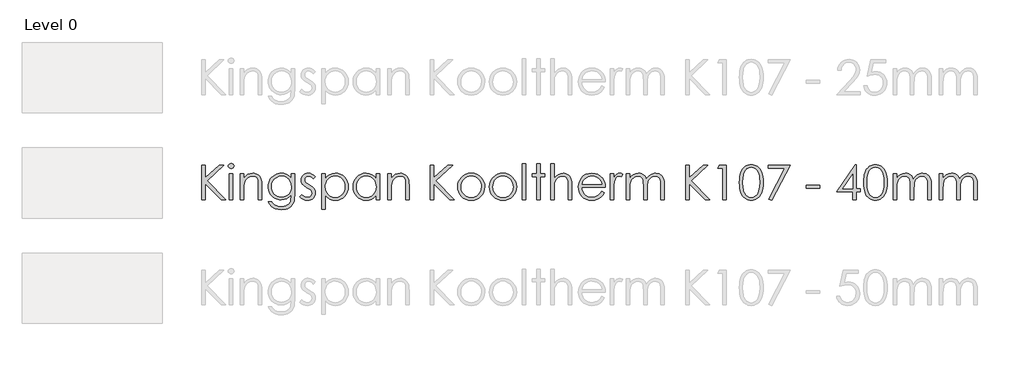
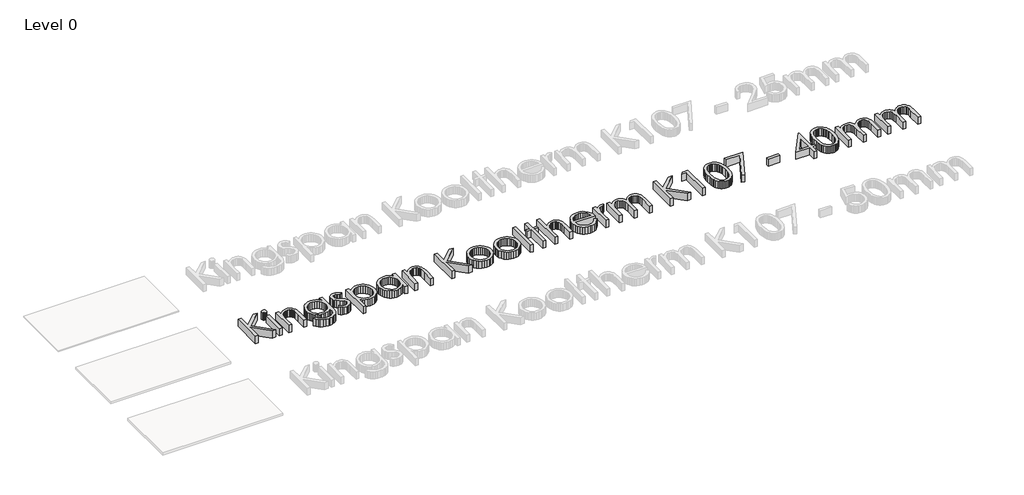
# One storey, part 12 of 13: 1 proxy.
"""IFC4 building model written with IfcOpenShell, lengths in millimetres."""

from ifc_helpers import new_model, si_unit, origin, origin_with_axes, place, context, project, spatial, polyline, outline, extrude, element, save

model = new_model("IFC4")

# Units and contexts
model_context = context("Model", 3, world=origin())
ifc_project = project(units=[si_unit("LENGTHUNIT", "METRE", prefix="MILLI")], contexts=[model_context])

# Site, building, storey
site = spatial("IfcSite", under=ifc_project)
building = spatial("IfcBuilding", under=site)
storey = spatial("IfcBuildingStorey", under=building, Name="Level 0", Elevation=0.0)

# Proxy
placement = place(None, origin())
element("IfcBuildingElementProxy", 1, Name="600mm KI_CenturyGothic", ObjectType="600mm KI_CenturyGothic", at=placement, inside=storey, context=model_context, shape_type="SweptSolid", body=[
    extrude(outline(polyline([(-3852.2663848, 4100.8965983), (-3792.944575, 4100.8965983), (-3792.944575, 3881.683973), (-3555.1938841, 4100.8965983), (-3471.6181051, 4100.8965983), (-3760.9664119, 3833.9484541), (-3441.9572002, 3507.6785001), (-3520.8984627, 3507.6785001), (-3792.944575, 3785.9039675), (-3792.944575, 3507.6785001), (-3852.2663848, 3507.6785001), (-3852.2663848, 4100.8965983)])), origin_with_axes(), (0.0, 0.0, 1.0), 150.0),
    extrude(outline(polyline([(-3348.1854852, 4130.5575033), (-3329.145347, 4127.2747208), (-3313.1176445, 4117.4263735), (-3302.226531, 4102.9821307), (-3298.5961598, 4085.911662), (-3302.226531, 4069.0729191), (-3313.1176445, 4054.7059183), (-3329.145347, 4044.857571), (-3348.1854852, 4041.5747885), (-3366.9938975, 4044.857571), (-3382.9443581, 4054.7059183), (-3393.8354717, 4069.0729191), (-3397.4658428, 4085.911662), (-3393.8354717, 4102.9821307), (-3382.9443581, 4117.4263735), (-3366.9938975, 4127.2747208), (-3348.1854852, 4130.5575033)])), origin_with_axes(), (0.0, 0.0, 1.0), 150.0),
    extrude(outline(polyline([(-3377.6919062, 3952.5920738), (-3318.3700964, 3952.5920738), (-3318.3700964, 3507.6785001), (-3377.6919062, 3507.6785001), (-3377.6919062, 3952.5920738)])), origin_with_axes(), (0.0, 0.0, 1.0), 150.0),
    extrude(outline(polyline([(-3189.8395084, 3952.5920738), (-3130.5176986, 3952.5920738), (-3130.5176986, 3873.4963274), (-3096.9946967, 3913.0055796), (-3060.0730495, 3940.696815), (-3019.7141359, 3957.0334853), (-2975.879335, 3962.4790421), (-2953.4357238, 3960.9004099), (-2932.2955704, 3956.1645135), (-2912.4588747, 3948.2713528), (-2893.9256368, 3937.2209277), (-2877.212412, 3923.4960006), (-2862.835756, 3907.5793333), (-2841.0921499, 3869.1707787), (-2833.6238199, 3844.7912914), (-2828.2892984, 3814.4448643), (-2824.0216812, 3735.8511905), (-2824.0216812, 3507.6785001), (-2883.343491, 3507.6785001), (-2883.343491, 3720.8662542), (-2883.343491, 3823.907002), (-2884.7290183, 3844.7043943), (-2889.8125035, 3862.7596977), (-2898.2849788, 3878.0729123), (-2910.1464442, 3890.644038), (-2924.7403432, 3900.4441091), (-2941.4101193, 3907.4441599), (-2980.977303, 3913.0442006), (-3005.3471351, 3910.8862539), (-3028.4038541, 3904.4124138), (-3050.1474602, 3893.6226803), (-3070.5779533, 3878.5170534), (-3088.6622225, 3860.2348518), (-3103.3671568, 3839.915394), (-3114.6927562, 3817.55868), (-3122.6390208, 3793.1647099), (-3128.5480292, 3746.0857475), (-3130.5176986, 3671.5858965), (-3130.5176986, 3507.6785001), (-3189.8395084, 3507.6785001), (-3189.8395084, 3952.5920738)])), origin_with_axes(), (0.0, 0.0, 1.0), 150.0),
    extrude(outline(polyline([(-2319.7862977, 3952.5920738), (-2260.4644879, 3952.5920738), (-2260.4644879, 3601.604699), (-2264.5196897, 3521.3503235), (-2269.588692, 3490.5500999), (-2276.6852953, 3465.9678526), (-2289.9371156, 3437.3545415), (-2307.2924139, 3412.2267729), (-2328.7511904, 3390.5845469), (-2354.3134448, 3372.4278634), (-2383.3226209, 3358.0656902), (-2415.122162, 3347.8069951), (-2449.7120682, 3341.651778), (-2487.0923395, 3339.6000389), (-2541.0458345, 3343.6166198), (-2589.206184, 3355.6663624), (-2630.260275, 3374.4940853), (-2662.8949946, 3398.8446068), (-2690.2000204, 3432.1938144), (-2715.2650299, 3478.0175952), (-2655.94322, 3478.0175952), (-2642.4355358, 3456.848476), (-2627.0933555, 3438.6048954), (-2609.9166791, 3423.2868532), (-2590.9055067, 3410.8943494), (-2569.7894914, 3401.3308318), (-2546.2982864, 3394.4997477), (-2492.1903075, 3389.0348805), (-2438.5071593, 3394.3645743), (-2415.083541, 3401.0266916), (-2393.93856, 3410.3536559), (-2359.6624492, 3434.3952097), (-2336.8567664, 3463.8823202), (-2329.3884364, 3482.5217658), (-2324.0539149, 3506.2302137), (-2319.7862977, 3568.8541165), (-2319.7862977, 3591.5632468), (-2354.757586, 3555.7809182), (-2396.6420279, 3529.3834852), (-2443.392712, 3513.1047464), (-2492.9627269, 3507.6785001), (-2522.4063889, 3509.5757553), (-2550.9521133, 3515.2675207), (-2578.5999001, 3524.7537964), (-2605.3497494, 3538.0345825), (-2630.1540674, 3554.5257366), (-2651.9652601, 3573.6431168), (-2670.7833277, 3595.3867228), (-2686.6082702, 3619.7565549), (-2699.1456025, 3646.0719183), (-2708.1008399, 3673.6521184), (-2713.4739824, 3702.4971553), (-2715.2650299, 3732.607029), (-2713.3967404, 3762.8955247), (-2707.7918722, 3792.1219437), (-2698.4504251, 3820.286286), (-2685.3723991, 3847.3885517), (-2668.9971079, 3872.5742517), (-2649.7638648, 3894.9888971), (-2627.67267, 3914.632488), (-2602.7235235, 3931.5050242), (-2575.9833294, 3945.056157), (-2548.5189922, 3954.7355376), (-2520.3305117, 3960.543166), (-2491.4178881, 3962.4790421), (-2444.5320306, 3957.5355579), (-2400.8903346, 3942.7051055), (-2359.6045177, 3916.1338782), (-2319.7862977, 3875.9680694), (-2319.7862977, 3952.5920738)]), holes=[polyline([(-2484.1571458, 3913.0442006), (-2529.0154023, 3907.0193293), (-2570.5908765, 3888.9447153), (-2606.2187212, 3860.2300242), (-2633.2340897, 3822.2849212), (-2650.2659375, 3778.0059792), (-2655.94322, 3730.2897708), (-2653.0080263, 3694.3770964), (-2644.2024452, 3661.7182387), (-2629.5264766, 3632.3131977), (-2608.9801206, 3606.1619734), (-2583.7606272, 3584.703197), (-2555.0652466, 3569.3754996), (-2522.8939786, 3560.1788811), (-2487.2468234, 3557.1133416), (-2451.3244937, 3560.154743), (-2419.1001219, 3569.2789472), (-2390.573708, 3584.4859541), (-2365.7452519, 3605.7757637), (-2345.6382095, 3632.0187128), (-2331.2760363, 3662.0851379), (-2322.6587323, 3695.975039), (-2319.7862977, 3733.6884162), (-2325.0773706, 3782.3894593), (-2340.9505892, 3825.6063246), (-2366.4983608, 3861.8327944), (-2400.8130926, 3889.5626508), (-2440.9982119, 3907.1738131), (-2484.1571458, 3913.0442006)])]), origin_with_axes(), (0.0, 0.0, 1.0), 150.0),
    extrude(outline(polyline([(-1904.5336289, 3901.3034257), (-1940.9918246, 3863.609359), (-1962.9575012, 3885.2371022), (-1984.6721416, 3900.6854902), (-2006.1357456, 3909.954523), (-2027.3483133, 3913.0442006), (-2052.181597, 3908.3710632), (-2073.2300256, 3894.3516511), (-2087.5970264, 3874.1142629), (-2092.3860267, 3850.787197), (-2088.4466878, 3829.2366958), (-2076.628671, 3808.7675817), (-2052.0657341, 3786.599145), (-2010.2006027, 3760.877579), (-1958.3326401, 3728.0111336), (-1939.8428507, 3712.1861912), (-1926.315856, 3696.7667689), (-1909.9791857, 3664.0934284), (-1904.5336289, 3627.5579908), (-1906.9474396, 3601.4115941), (-1914.1888714, 3577.3507299), (-1926.2579245, 3555.375398), (-1943.1545989, 3535.4855985), (-1963.6719892, 3518.9944443), (-1986.6031901, 3507.2150485), (-2011.9482016, 3500.147411), (-2039.7070237, 3497.7915318), (-2077.4397114, 3501.6729393), (-2113.3958344, 3513.3171617), (-2145.4512394, 3531.7972958), (-2171.4817731, 3556.1864383), (-2135.7959969, 3596.6612148), (-2114.0041146, 3575.0334717), (-2091.5749863, 3559.5850837), (-2068.5086121, 3550.3160509), (-2044.8049918, 3547.2263733), (-2013.637869, 3552.8650349), (-1987.4914724, 3569.7810198), (-1969.7644472, 3594.3439566), (-1963.8554388, 3622.9234744), (-1967.7561567, 3646.7139919), (-1979.4583106, 3667.7237995), (-2005.0253927, 3689.4287846), (-2050.2119275, 3716.2317378), (-2099.762632, 3746.8967879), (-2117.441381, 3762.0555186), (-2130.3890611, 3777.0983864), (-2146.3781427, 3809.2310334), (-2151.7078365, 3845.689229), (-2149.5305794, 3869.7356104), (-2142.9988078, 3891.6674937), (-2132.1125219, 3911.4848789), (-2116.8717217, 3929.187766), (-2098.309518, 3943.7526993), (-2077.4590218, 3954.1562231), (-2054.3202332, 3960.3983373), (-2028.8931521, 3962.4790421), (-1997.9481, 3958.6555661), (-1966.9064954, 3947.185138), (-1935.7683384, 3928.0677579), (-1904.5336289, 3901.3034257)])), origin_with_axes(), (0.0, 0.0, 1.0), 150.0),
    extrude(outline(polyline([(-1795.7769776, 3952.5920738), (-1736.4551678, 3952.5920738), (-1736.4551678, 3871.4880369), (-1700.9238754, 3911.7310876), (-1660.4490989, 3940.0788795), (-1614.9922173, 3956.8790014), (-1564.5146096, 3962.4790421), (-1520.0618732, 3958.2403906), (-1478.9305402, 3945.5244363), (-1441.1206107, 3924.331179), (-1406.6320845, 3894.6606189), (-1377.9077381, 3859.0231189), (-1357.3903478, 3819.929042), (-1345.0799137, 3777.3783884), (-1340.9764356, 3731.371158), (-1345.0412927, 3684.4708176), (-1357.235864, 3641.2491246), (-1377.5601494, 3601.706079), (-1406.014149, 3565.8416808), (-1440.2130179, 3536.0697406), (-1477.7719111, 3514.8040691), (-1518.6908288, 3502.0446661), (-1562.9697708, 3497.7915318), (-1612.6170277, 3503.256399), (-1658.0545988, 3519.6510008), (-1699.3211052, 3546.8980951), (-1736.4551678, 3584.92044), (-1736.4551678, 3349.4870072), (-1795.7769776, 3349.4870072), (-1795.7769776, 3952.5920738)]), holes=[polyline([(-1568.5311905, 3913.0442006), (-1602.5852307, 3909.7469353), (-1633.8392507, 3899.8551393), (-1662.2932503, 3883.3688128), (-1687.9472295, 3860.2879556), (-1709.1694525, 3832.3022353), (-1724.3281832, 3801.1013192), (-1733.4234216, 3766.6852074), (-1736.4551678, 3729.0538998), (-1731.048232, 3680.1983728), (-1714.8274246, 3636.5180558), (-1688.5265441, 3599.6736505), (-1652.8793888, 3571.3258586), (-1611.4390881, 3553.2512446), (-1567.7587711, 3547.2263733), (-1525.0632888, 3553.2898656), (-1485.0326535, 3571.4803424), (-1450.2544701, 3600.5812433), (-1423.3163435, 3639.3760076), (-1406.05277, 3684.0411593), (-1400.2982454, 3730.7532225), (-1405.9948385, 3777.6970114), (-1423.0846177, 3822.1304373), (-1449.8103289, 3860.4810605), (-1484.414718, 3889.1764411), (-1524.7157001, 3907.0772607), (-1568.5311905, 3913.0442006)])]), origin_with_axes(), (0.0, 0.0, 1.0), 150.0),
    extrude(outline(polyline([(-807.0801472, 3952.5920738), (-807.0801472, 3507.6785001), (-866.401957, 3507.6785001), (-866.401957, 3583.5300851), (-903.4780882, 3545.6815345), (-944.8797679, 3518.9558233), (-990.4525125, 3503.0826047), (-1040.0418379, 3497.7915318), (-1084.3159523, 3502.0446661), (-1125.2203871, 3514.8040691), (-1162.7551422, 3536.0697406), (-1196.9202178, 3565.8416808), (-1225.340424, 3601.706079), (-1245.6405713, 3641.2491246), (-1257.8206597, 3684.4708176), (-1261.8806892, 3731.371158), (-1257.7820388, 3777.3783884), (-1245.4860875, 3819.929042), (-1224.9928353, 3859.0231189), (-1196.3022822, 3894.6606189), (-1161.8475494, 3924.331179), (-1124.061758, 3945.5244363), (-1082.9449079, 3958.2403906), (-1038.4969991, 3962.4790421), (-987.7490446, 3956.8790014), (-942.0990581, 3940.0788795), (-921.2051134, 3927.3918909), (-901.6242816, 3911.7310876), (-866.401957, 3871.4880369), (-866.401957, 3952.5920738), (-807.0801472, 3952.5920738)]), holes=[polyline([(-1034.3259343, 3913.0442006), (-1078.1414247, 3907.0772607), (-1118.4424068, 3889.1764411), (-1153.0467959, 3860.4810605), (-1179.7725071, 3822.1304373), (-1196.8622863, 3777.6970114), (-1202.5588794, 3730.7532225), (-1196.8043548, 3684.0411593), (-1179.5407813, 3639.3760076), (-1152.6026548, 3600.5812433), (-1117.8244713, 3571.4803424), (-1077.6779731, 3553.2898656), (-1034.6349021, 3547.2263733), (-991.0125165, 3553.2512446), (-949.7460102, 3571.3258586), (-914.2726493, 3599.6736505), (-888.0297002, 3636.5180558), (-871.8088928, 3680.1983728), (-866.401957, 3729.0538998), (-869.4337032, 3766.6852074), (-878.5289416, 3801.1013192), (-893.6876723, 3832.3022353), (-914.9098953, 3860.2879556), (-940.5638746, 3883.3688128), (-969.0178742, 3899.8551393), (-1000.2718941, 3909.7469353), (-1034.3259343, 3913.0442006)])]), origin_with_axes(), (0.0, 0.0, 1.0), 150.0),
    extrude(outline(polyline([(-668.662591, 3952.5920738), (-609.3407811, 3952.5920738), (-609.3407811, 3873.4963274), (-575.8177792, 3913.0055796), (-538.896132, 3940.696815), (-498.5372184, 3957.0334853), (-454.7024175, 3962.4790421), (-432.2588064, 3960.9004099), (-411.1186529, 3956.1645135), (-391.2819572, 3948.2713528), (-372.7487193, 3937.2209277), (-356.0354946, 3923.4960006), (-341.6588385, 3907.5793333), (-319.9152324, 3869.1707787), (-312.4469024, 3844.7912914), (-307.1123809, 3814.4448643), (-302.8447637, 3735.8511905), (-302.8447637, 3507.6785001), (-362.1665735, 3507.6785001), (-362.1665735, 3720.8662542), (-362.1665735, 3823.907002), (-363.5521008, 3844.7043943), (-368.635586, 3862.7596977), (-377.1080613, 3878.0729123), (-388.9695267, 3890.644038), (-403.5634257, 3900.4441091), (-420.2332018, 3907.4441599), (-459.8003855, 3913.0442006), (-484.1702176, 3910.8862539), (-507.2269366, 3904.4124138), (-528.9705427, 3893.6226803), (-549.4010358, 3878.5170534), (-567.485305, 3860.2348518), (-582.1902393, 3839.915394), (-593.5158387, 3817.55868), (-601.4621033, 3793.1647099), (-607.3711117, 3746.0857475), (-609.3407811, 3671.5858965), (-609.3407811, 3507.6785001), (-668.662591, 3507.6785001), (-668.662591, 3952.5920738)])), origin_with_axes(), (0.0, 0.0, 1.0), 150.0),
    extrude(outline(polyline([(62.9730635, 4100.8965983), (122.2948734, 4100.8965983), (122.2948734, 3881.683973), (360.0455643, 4100.8965983), (443.6213432, 4100.8965983), (154.2730365, 3833.9484541), (473.2822481, 3507.6785001), (394.3409856, 3507.6785001), (122.2948734, 3785.9039675), (122.2948734, 3507.6785001), (62.9730635, 3507.6785001), (62.9730635, 4100.8965983)])), origin_with_axes(), (0.0, 0.0, 1.0), 150.0),
    extrude(outline(polyline([(760.1588128, 3962.4790421), (809.4681362, 3957.8541809), (854.3553585, 3943.9795975), (894.8204798, 3920.8552917), (930.8635, 3888.4812637), (957.7630055, 3853.2492839), (976.9769381, 3814.908316), (988.5052976, 3773.45836), (992.3480841, 3728.8994159), (988.283227, 3684.0846079), (976.0886558, 3642.1760279), (955.7643703, 3603.1736759), (927.3103707, 3567.0775519), (892.4742558, 3536.7649181), (853.0036246, 3515.1130368), (808.8984769, 3502.1219081), (760.1588128, 3497.7915318), (711.2839754, 3502.1219081), (667.0822753, 3515.1130368), (627.5537126, 3536.7649181), (592.6982872, 3567.0775519), (564.2442876, 3603.1736759), (543.9200022, 3642.1760279), (531.7254309, 3684.0846079), (527.6605738, 3728.8994159), (531.5033603, 3773.2652551), (543.0317198, 3814.5993482), (562.2456524, 3852.9016951), (589.145158, 3888.1722959), (625.2074886, 3920.6814974), (665.7305413, 3943.9023555), (710.7143161, 3957.8348705), (760.1588128, 3962.4790421)]), holes=[polyline([(760.004329, 3913.0442006), (725.7282181, 3909.6696933), (693.9624704, 3899.5461716), (664.7070856, 3882.6736353), (637.962064, 3859.0520846), (615.6584538, 3830.6415336), (599.7273037, 3799.4019965), (590.1686137, 3765.3334734), (586.9823836, 3728.4359643), (592.7948396, 3680.7004454), (610.2322075, 3636.3635719), (637.5758543, 3598.5729529), (673.1071466, 3570.4761972), (714.6439998, 3553.0388293), (760.004329, 3547.2263733), (805.3646581, 3553.0388293), (846.9015113, 3570.4761972), (882.4328037, 3598.5729529), (909.7764504, 3636.3635719), (927.2138183, 3680.7004454), (933.0262743, 3728.4359643), (929.8255614, 3765.3334734), (920.2234227, 3799.4019965), (904.2198583, 3830.6415336), (881.8148681, 3859.0520846), (854.9974321, 3882.6736353), (825.7565303, 3899.5461716), (794.0921625, 3909.6696933), (760.004329, 3913.0442006)])]), origin_with_axes(), (0.0, 0.0, 1.0), 150.0),
    extrude(outline(polyline([(1303.9420695, 3962.4790421), (1353.2513929, 3957.8541809), (1398.1386152, 3943.9795975), (1438.6037365, 3920.8552917), (1474.6467567, 3888.4812637), (1501.5462622, 3853.2492839), (1520.7601948, 3814.908316), (1532.2885543, 3773.45836), (1536.1313408, 3728.8994159), (1532.0664837, 3684.0846079), (1519.8719125, 3642.1760279), (1499.547627, 3603.1736759), (1471.0936274, 3567.0775519), (1436.2575126, 3536.7649181), (1396.7868813, 3515.1130368), (1352.6817336, 3502.1219081), (1303.9420695, 3497.7915318), (1255.0672321, 3502.1219081), (1210.865532, 3515.1130368), (1171.3369693, 3536.7649181), (1136.4815439, 3567.0775519), (1108.0275443, 3603.1736759), (1087.7032589, 3642.1760279), (1075.5086876, 3684.0846079), (1071.4438305, 3728.8994159), (1075.286617, 3773.2652551), (1086.8149766, 3814.5993482), (1106.0289091, 3852.9016951), (1132.9284147, 3888.1722959), (1168.9907453, 3920.6814974), (1209.5137981, 3943.9023555), (1254.4975728, 3957.8348705), (1303.9420695, 3962.4790421)]), holes=[polyline([(1303.7875857, 3913.0442006), (1269.5114748, 3909.6696933), (1237.7457271, 3899.5461716), (1208.4903423, 3882.6736353), (1181.7453207, 3859.0520846), (1159.4417105, 3830.6415336), (1143.5105604, 3799.4019965), (1133.9518704, 3765.3334734), (1130.7656404, 3728.4359643), (1136.5780963, 3680.7004454), (1154.0154643, 3636.3635719), (1181.359111, 3598.5729529), (1216.8904033, 3570.4761972), (1258.4272565, 3553.0388293), (1303.7875857, 3547.2263733), (1349.1479149, 3553.0388293), (1390.684768, 3570.4761972), (1426.2160604, 3598.5729529), (1453.5597071, 3636.3635719), (1470.997075, 3680.7004454), (1476.809531, 3728.4359643), (1473.6088181, 3765.3334734), (1464.0066795, 3799.4019965), (1448.003115, 3830.6415336), (1425.5981249, 3859.0520846), (1398.7806889, 3882.6736353), (1369.539787, 3899.5461716), (1337.8754193, 3909.6696933), (1303.7875857, 3913.0442006)])]), origin_with_axes(), (0.0, 0.0, 1.0), 150.0),
    extrude(outline(polyline([(1635.0010238, 4120.6705349), (1694.3228337, 4120.6705349), (1694.3228337, 3507.6785001), (1635.0010238, 3507.6785001), (1635.0010238, 4120.6705349)])), origin_with_axes(), (0.0, 0.0, 1.0), 150.0),
    extrude(outline(polyline([(1882.1752314, 4120.6705349), (1941.4970413, 4120.6705349), (1941.4970413, 3952.5920738), (2020.5927877, 3952.5920738), (2020.5927877, 3903.1572323), (1941.4970413, 3903.1572323), (1941.4970413, 3507.6785001), (1882.1752314, 3507.6785001), (1882.1752314, 3903.1572323), (1803.079485, 3903.1572323), (1803.079485, 3952.5920738), (1882.1752314, 3952.5920738), (1882.1752314, 4120.6705349)])), origin_with_axes(), (0.0, 0.0, 1.0), 150.0),
    extrude(outline(polyline([(2119.4624707, 4120.6705349), (2178.7842806, 4120.6705349), (2178.7842806, 3871.9514886), (2212.5583188, 3911.6538456), (2249.6151394, 3939.9243956), (2289.9161216, 3956.8403805), (2333.4226442, 3962.4790421), (2355.8662553, 3960.9004099), (2377.0064088, 3956.1645135), (2396.8431044, 3948.2713528), (2415.3763424, 3937.2209277), (2432.0895671, 3923.5104834), (2446.4662232, 3907.6372648), (2468.2098293, 3869.4025045), (2475.6781593, 3845.0954316), (2481.0126808, 3814.7345216), (2485.280298, 3735.8511905), (2485.280298, 3507.6785001), (2425.9584882, 3507.6785001), (2425.9584882, 3720.8662542), (2424.5681332, 3785.247411), (2420.3970685, 3823.907002), (2406.879729, 3862.7596977), (2397.1665551, 3878.0729123), (2385.4837117, 3890.644038), (2371.840854, 3900.4441091), (2356.2476374, 3907.4441599), (2319.2101273, 3913.0442006), (2296.3416854, 3910.8862539), (2274.6994594, 3904.4124138), (2254.2834492, 3893.6226803), (2235.0936547, 3878.5170534), (2218.1052556, 3860.2348518), (2204.2934312, 3839.915394), (2193.6581816, 3817.55868), (2186.1995068, 3793.1647099), (2180.6380871, 3746.3174733), (2178.7842806, 3671.5858965), (2178.7842806, 3507.6785001), (2119.4624707, 3507.6785001), (2119.4624707, 4120.6705349)])), origin_with_axes(), (0.0, 0.0, 1.0), 150.0),
    extrude(outline(polyline([(2991.0605203, 3655.9830247), (3038.950523, 3630.8021523), (3013.3255094, 3588.9177104), (2984.0315038, 3555.9547125), (2950.952643, 3530.8703926), (2913.9730643, 3512.6219843), (2872.4941426, 3501.4991449), (2825.9172528, 3497.7915318), (2774.4258447, 3502.2232881), (2728.8627554, 3515.518557), (2689.227985, 3537.6773385), (2655.5215335, 3568.6996326), (2628.6220279, 3605.3026569), (2609.4080954, 3644.2036288), (2597.8797358, 3685.4025485), (2594.0369493, 3728.8994159), (2597.3197318, 3769.7797126), (2607.1680791, 3808.381372), (2623.5819913, 3844.7043943), (2646.5614684, 3878.7487793), (2682.7493173, 3915.3807692), (2724.5758277, 3941.5464764), (2772.0409998, 3957.2459007), (2825.1448334, 3962.4790421), (2879.7935059, 3957.1107273), (2928.6490329, 3941.0057828), (2971.7114143, 3914.1642087), (3008.9806503, 3876.5860049), (3030.4539096, 3844.414737), (3045.9022976, 3808.458614), (3055.3258143, 3768.7176359), (3058.7244596, 3725.1918028), (2653.3587591, 3725.1918028), (2657.095338, 3687.9370497), (2666.6057518, 3654.1871496), (2681.8900007, 3623.9421025), (2702.9480845, 3597.2019084), (2728.3124066, 3575.3376118), (2756.5153699, 3559.7202571), (2787.5569744, 3550.3498443), (2821.4372203, 3547.2263733), (2854.9602222, 3550.238809), (2887.5563208, 3559.2761159), (2917.2944677, 3573.3148385), (2942.2436143, 3591.331521), (2965.725164, 3617.4972281), (2991.0605203, 3655.9830247)]), holes=[polyline([(2999.4026498, 3774.6266443), (2984.9777175, 3817.1483322), (2965.1844704, 3850.1692615), (2939.0766947, 3875.6977226), (2905.7081767, 3895.742006), (2867.7630738, 3908.7186519), (2827.9255433, 3913.0442006), (2795.503239, 3910.3310774), (2765.4368139, 3902.191708), (2737.726268, 3888.6260923), (2712.3716012, 3869.6342304), (2695.8321708, 3851.820308), (2681.4362043, 3830.0477362), (2669.1837016, 3804.316515), (2659.0746627, 3774.6266443), (2999.4026498, 3774.6266443)])]), origin_with_axes(), (0.0, 0.0, 1.0), 150.0),
    extrude(outline(polyline([(3137.820206, 3952.5920738), (3197.1420159, 3952.5920738), (3197.1420159, 3888.1722959), (3222.6897875, 3921.2125357), (3249.589293, 3944.3271862), (3277.7632906, 3957.9410781), (3307.1345382, 3962.4790421), (3330.4616041, 3958.694187), (3355.3335087, 3947.3396219), (3325.8270877, 3905.3200066), (3297.2475699, 3913.0442006), (3270.8308265, 3907.0965712), (3245.3409863, 3889.2536831), (3223.2884125, 3858.8976007), (3207.183468, 3815.4103886), (3199.6523789, 3757.2858288), (3197.1420159, 3659.8451217), (3197.1420159, 3507.6785001), (3137.820206, 3507.6785001), (3137.820206, 3952.5920738)])), origin_with_axes(), (0.0, 0.0, 1.0), 150.0),
    extrude(outline(polyline([(3414.6553185, 3952.5920738), (3473.9771284, 3952.5920738), (3473.9771284, 3876.4315211), (3503.5607913, 3912.9283377), (3533.9168737, 3938.0705891), (3577.3268439, 3956.3769288), (3622.8995884, 3962.4790421), (3653.7384329, 3959.331433), (3682.9165757, 3949.8886059), (3708.6767627, 3935.2126373), (3729.2617397, 3916.365604), (3746.0425511, 3890.9336953), (3760.3902414, 3856.5031006), (3775.16759, 3880.9018983), (3791.6925376, 3902.191708), (3809.965084, 3920.3725296), (3829.9852293, 3935.4443631), (3851.2798666, 3947.2720352), (3873.375889, 3955.7203723), (3896.2732965, 3960.7893747), (3919.9720892, 3962.4790421), (3962.3006723, 3956.6665861), (3981.4952943, 3949.4010161), (3999.3768034, 3939.2292182), (4015.4914031, 3926.46016), (4029.385297, 3911.4028093), (4050.5109676, 3874.4232306), (4057.8103309, 3851.0478886), (4063.0241619, 3822.4780261), (4067.1952266, 3749.7547397), (4067.1952266, 3507.6785001), (4007.8734168, 3507.6785001), (4007.8734168, 3753.3078689), (4005.4209852, 3814.4255538), (3998.0636904, 3852.8727294), (3984.7587663, 3877.3391139), (3964.4634466, 3896.5144254), (3938.3942919, 3908.9117568), (3907.7678627, 3913.0442006), (3888.1194443, 3911.4945341), (3869.3399976, 3906.8455349), (3834.3880198, 3888.2495379), (3805.6540182, 3859.3031209), (3785.8800816, 3822.0531954), (3779.1889985, 3797.8957787), (3774.4096535, 3766.8252084), (3770.5861775, 3683.9446069), (3770.5861775, 3507.6785001), (3711.2643677, 3507.6785001), (3711.2643677, 3738.0139648), (3708.850557, 3806.469634), (3701.6091252, 3848.7016647), (3688.3621325, 3874.9446137), (3667.9316394, 3895.4330383), (3641.6114484, 3908.64141), (3610.6953619, 3913.0442006), (3573.7544042, 3907.0000188), (3539.2465676, 3888.8674734), (3510.2808401, 3860.500371), (3489.9662099, 3823.7525181), (3477.9743988, 3771.9231764), (3473.9771284, 3698.3116077), (3473.9771284, 3507.6785001), (3414.6553185, 3507.6785001), (3414.6553185, 3952.5920738)])), origin_with_axes(), (0.0, 0.0, 1.0), 150.0),
    extrude(outline(polyline([(4433.0130538, 4100.8965983), (4492.3348637, 4100.8965983), (4492.3348637, 3881.683973), (4730.0855546, 4100.8965983), (4813.6613335, 4100.8965983), (4524.3130268, 3833.9484541), (4843.3222385, 3507.6785001), (4764.3809759, 3507.6785001), (4492.3348637, 3785.9039675), (4492.3348637, 3507.6785001), (4433.0130538, 3507.6785001), (4433.0130538, 4100.8965983)])), origin_with_axes(), (0.0, 0.0, 1.0), 150.0),
    extrude(outline(polyline([(5010.6282802, 4100.8965983), (5125.1008351, 4100.8965983), (5125.1008351, 3507.6785001), (5065.7790253, 3507.6785001), (5065.7790253, 4051.4617568), (4976.7963106, 4051.4617568), (5010.6282802, 4100.8965983)])), origin_with_axes(), (0.0, 0.0, 1.0), 150.0),
    extrude(outline(polyline([(5352.5011061, 3804.1330653), (5354.0797383, 3858.5644948), (5358.8156347, 3906.4593252), (5366.7087954, 3947.8175564), (5377.7592204, 3982.6391884), (5391.6869077, 4012.2807828), (5408.2118552, 4038.0989012), (5427.334063, 4060.0935436), (5449.053531, 4078.26471), (5472.747496, 4092.4917098), (5497.793195, 4102.6538525), (5524.190628, 4108.7511381), (5551.9397949, 4110.7835666), (5580.1427582, 4108.7366552), (5606.974677, 4102.595921), (5632.4355515, 4092.361364), (5656.5253815, 4078.0329841), (5678.7083011, 4059.6156091), (5698.4484443, 4037.1140665), (5715.7458112, 4010.5283563), (5730.6004018, 3979.8584786), (5742.5294539, 3944.3416691), (5751.0502054, 3903.2151637), (5756.1626563, 3856.4789625), (5757.8668066, 3804.1330653), (5756.1867944, 3751.9464797), (5751.1467578, 3705.3792452), (5742.7466968, 3664.4313618), (5730.9866115, 3629.1028296), (5716.2768496, 3598.5777805), (5699.0277589, 3572.0403465), (5679.2393394, 3549.4905277), (5656.9115912, 3530.928324), (5632.6527944, 3516.4309774), (5607.0712295, 3506.0757299), (5580.1668963, 3499.8625813), (5551.9397949, 3497.7915318), (5524.2147661, 3499.7998222), (5497.8897474, 3505.8246936), (5472.964739, 3515.8661457), (5449.4397407, 3529.9241788), (5427.8651013, 3547.9601718), (5408.7911698, 3569.9355036), (5392.2179461, 3595.8501745), (5378.1454301, 3625.7041842), (5366.9260384, 3660.7237487), (5358.9121871, 3702.1350837), (5354.1038764, 3749.9381893), (5352.5011061, 3804.1330653)]), holes=[polyline([(5411.8229159, 3804.2875492), (5416.206396, 3715.961391), (5421.6857461, 3680.9804475), (5429.3568363, 3652.1209277), (5439.1713903, 3627.8814414), (5451.0811319, 3606.7605985), (5465.0860611, 3588.7583989), (5481.1861779, 3573.8748426), (5516.4857445, 3553.8884906), (5534.8886366, 3548.8919027), (5553.7936014, 3547.2263733), (5572.7854634, 3548.8581093), (5591.1400794, 3553.7533172), (5625.9375733, 3573.334149), (5641.694929, 3588.0101176), (5655.4439943, 3605.9302476), (5667.1847692, 3627.0945392), (5676.9172536, 3651.5029922), (5686.3793912, 3684.8618549), (5693.138061, 3721.4455687), (5698.5449967, 3804.2875492), (5693.7173755, 3885.8936587), (5687.682849, 3920.5849449), (5679.2345118, 3951.2017189), (5668.652366, 3977.864671), (5656.2164137, 4000.6944918), (5641.9266548, 4019.6911814), (5625.7830894, 4034.8547397), (5590.7152487, 4054.7252288), (5572.4861509, 4059.692851), (5553.7936014, 4061.3487251), (5534.7776014, 4059.692851), (5516.3505711, 4054.7252288), (5481.2634199, 4034.8547397), (5465.3177869, 4020.0435978), (5451.3900996, 4002.1041572), (5439.480358, 3981.0364181), (5429.5885621, 3956.8403805), (5421.8160919, 3927.9856883), (5416.2643275, 3892.9419857), (5411.8229159, 3804.2875492)])]), origin_with_axes(), (0.0, 0.0, 1.0), 150.0),
    extrude(outline(polyline([(5846.8495213, 4100.8965983), (6222.5543169, 4100.8965983), (5906.1713311, 3497.7915318), (5852.2564571, 3520.1916944), (6130.9453762, 4051.4617568), (5846.8495213, 4051.4617568), (5846.8495213, 4100.8965983)])), origin_with_axes(), (0.0, 0.0, 1.0), 150.0),
    extrude(outline(polyline([(6499.3894294, 3754.8527077), (6726.7897004, 3754.8527077), (6726.7897004, 3705.4178662), (6499.3894294, 3705.4178662), (6499.3894294, 3754.8527077)])), origin_with_axes(), (0.0, 0.0, 1.0), 150.0),
    extrude(outline(polyline([(7337.6189609, 4110.7835666), (7349.6687035, 4110.7835666), (7349.6687035, 3695.5308979), (7418.8774816, 3695.5308979), (7418.8774816, 3646.0960564), (7349.6687035, 3646.0960564), (7349.6687035, 3507.6785001), (7290.3468937, 3507.6785001), (7290.3468937, 3646.0960564), (7013.5117812, 3646.0960564), (7337.6189609, 4110.7835666)]), holes=[polyline([(7290.3468937, 3695.5308979), (7290.3468937, 3942.7051055), (7118.0973678, 3695.5308979), (7290.3468937, 3695.5308979)])]), origin_with_axes(), (0.0, 0.0, 1.0), 150.0),
    extrude(outline(polyline([(7478.1992914, 3804.1330653), (7479.7779236, 3858.5644948), (7484.51382, 3906.4593252), (7492.4069808, 3947.8175564), (7503.4574058, 3982.6391884), (7517.3850931, 4012.2807828), (7533.9100406, 4038.0989012), (7553.0322483, 4060.0935436), (7574.7517163, 4078.26471), (7598.4456813, 4092.4917098), (7623.4913804, 4102.6538525), (7649.8888133, 4108.7511381), (7677.6379802, 4110.7835666), (7705.8409435, 4108.7366552), (7732.6728624, 4102.595921), (7758.1337368, 4092.361364), (7782.2235668, 4078.0329841), (7804.4064864, 4059.6156091), (7824.1466297, 4037.1140665), (7841.4439966, 4010.5283563), (7856.2985871, 3979.8584786), (7868.2276392, 3944.3416691), (7876.7483907, 3903.2151637), (7881.8608416, 3856.4789625), (7883.5649919, 3804.1330653), (7881.8849797, 3751.9464797), (7876.8449431, 3705.3792452), (7868.4448822, 3664.4313618), (7856.6847968, 3629.1028296), (7841.9750349, 3598.5777805), (7824.7259442, 3572.0403465), (7804.9375247, 3549.4905277), (7782.6097765, 3530.928324), (7758.3509797, 3516.4309774), (7732.7694148, 3506.0757299), (7705.8650816, 3499.8625813), (7677.6379802, 3497.7915318), (7649.9129514, 3499.7998222), (7623.5879328, 3505.8246936), (7598.6629243, 3515.8661457), (7575.137926, 3529.9241788), (7553.5632867, 3547.9601718), (7534.4893551, 3569.9355036), (7517.9161314, 3595.8501745), (7503.8436155, 3625.7041842), (7492.6242237, 3660.7237487), (7484.6103725, 3702.1350837), (7479.8020617, 3749.9381893), (7478.1992914, 3804.1330653)]), holes=[polyline([(7537.5211013, 3804.2875492), (7541.9045814, 3715.961391), (7547.3839315, 3680.9804475), (7555.0550216, 3652.1209277), (7564.8695756, 3627.8814414), (7576.7793172, 3606.7605985), (7590.7842464, 3588.7583989), (7606.8843633, 3573.8748426), (7642.1839298, 3553.8884906), (7660.586822, 3548.8919027), (7679.4917868, 3547.2263733), (7698.4836487, 3548.8581093), (7716.8382647, 3553.7533172), (7751.6357586, 3573.334149), (7767.3931143, 3588.0101176), (7781.1421796, 3605.9302476), (7792.8829545, 3627.0945392), (7802.6154389, 3651.5029922), (7812.0775766, 3684.8618549), (7818.8362463, 3721.4455687), (7824.2431821, 3804.2875492), (7819.4155608, 3885.8936587), (7813.3810343, 3920.5849449), (7804.9326971, 3951.2017189), (7794.3505514, 3977.864671), (7781.914599, 4000.6944918), (7767.6248402, 4019.6911814), (7751.4812747, 4034.8547397), (7716.413434, 4054.7252288), (7698.1843362, 4059.692851), (7679.4917868, 4061.3487251), (7660.4757867, 4059.692851), (7642.0487564, 4054.7252288), (7606.9616052, 4034.8547397), (7591.0159723, 4020.0435978), (7577.088285, 4002.1041572), (7565.1785434, 3981.0364181), (7555.2867474, 3956.8403805), (7547.5142772, 3927.9856883), (7541.9625128, 3892.9419857), (7537.5211013, 3804.2875492)])]), origin_with_axes(), (0.0, 0.0, 1.0), 150.0),
    extrude(outline(polyline([(7982.4346749, 3952.5920738), (8041.7564848, 3952.5920738), (8041.7564848, 3876.4315211), (8071.3401477, 3912.9283377), (8101.6962301, 3938.0705891), (8145.1062003, 3956.3769288), (8190.6789448, 3962.4790421), (8221.5177893, 3959.331433), (8250.6959321, 3949.8886059), (8276.4561191, 3935.2126373), (8297.0410961, 3916.365604), (8313.8219075, 3890.9336953), (8328.1695978, 3856.5031006), (8342.9469464, 3880.9018983), (8359.471894, 3902.191708), (8377.7444404, 3920.3725296), (8397.7645856, 3935.4443631), (8419.0592229, 3947.2720352), (8441.1552454, 3955.7203723), (8464.0526529, 3960.7893747), (8487.7514456, 3962.4790421), (8530.0800287, 3956.6665861), (8549.2746507, 3949.4010161), (8567.1561598, 3939.2292182), (8583.2707595, 3926.46016), (8597.1646534, 3911.4028093), (8618.290324, 3874.4232306), (8625.5896873, 3851.0478886), (8630.8035182, 3822.4780261), (8634.974583, 3749.7547397), (8634.974583, 3507.6785001), (8575.6527732, 3507.6785001), (8575.6527732, 3753.3078689), (8573.2003416, 3814.4255538), (8565.8430468, 3852.8727294), (8552.5381227, 3877.3391139), (8532.242803, 3896.5144254), (8506.1736483, 3908.9117568), (8475.5472191, 3913.0442006), (8455.8988006, 3911.4945341), (8437.119354, 3906.8455349), (8402.1673762, 3888.2495379), (8373.4333746, 3859.3031209), (8353.659438, 3822.0531954), (8346.9683549, 3797.8957787), (8342.1890099, 3766.8252084), (8338.3655339, 3683.9446069), (8338.3655339, 3507.6785001), (8279.0437241, 3507.6785001), (8279.0437241, 3738.0139648), (8276.6299134, 3806.469634), (8269.3884816, 3848.7016647), (8256.1414889, 3874.9446137), (8235.7109958, 3895.4330383), (8209.3908048, 3908.64141), (8178.4747183, 3913.0442006), (8141.5337606, 3907.0000188), (8107.025924, 3888.8674734), (8078.0601965, 3860.500371), (8057.7455663, 3823.7525181), (8045.7537552, 3771.9231764), (8041.7564848, 3698.3116077), (8041.7564848, 3507.6785001), (7982.4346749, 3507.6785001), (7982.4346749, 3952.5920738)])), origin_with_axes(), (0.0, 0.0, 1.0), 150.0),
    extrude(outline(polyline([(8773.3921393, 3952.5920738), (8832.7139491, 3952.5920738), (8832.7139491, 3876.4315211), (8862.2976121, 3912.9283377), (8892.6536944, 3938.0705891), (8936.0636646, 3956.3769288), (8981.6364092, 3962.4790421), (9012.4752537, 3959.331433), (9041.6533964, 3949.8886059), (9067.4135834, 3935.2126373), (9087.9985604, 3916.365604), (9104.7793718, 3890.9336953), (9119.1270621, 3856.5031006), (9133.9044108, 3880.9018983), (9150.4293583, 3902.191708), (9168.7019047, 3920.3725296), (9188.72205, 3935.4443631), (9210.0166873, 3947.2720352), (9232.1127097, 3955.7203723), (9255.0101172, 3960.7893747), (9278.7089099, 3962.4790421), (9321.037493, 3956.6665861), (9340.232115, 3949.4010161), (9358.1136241, 3939.2292182), (9374.2282238, 3926.46016), (9388.1221177, 3911.4028093), (9409.2477883, 3874.4232306), (9416.5471516, 3851.0478886), (9421.7609826, 3822.4780261), (9425.9320473, 3749.7547397), (9425.9320473, 3507.6785001), (9366.6102375, 3507.6785001), (9366.6102375, 3753.3078689), (9364.1578059, 3814.4255538), (9356.8005111, 3852.8727294), (9343.495587, 3877.3391139), (9323.2002673, 3896.5144254), (9297.1311126, 3908.9117568), (9266.5046834, 3913.0442006), (9246.856265, 3911.4945341), (9228.0768183, 3906.8455349), (9193.1248405, 3888.2495379), (9164.3908389, 3859.3031209), (9144.6169023, 3822.0531954), (9137.9258192, 3797.8957787), (9133.1464742, 3766.8252084), (9129.3229982, 3683.9446069), (9129.3229982, 3507.6785001), (9070.0011884, 3507.6785001), (9070.0011884, 3738.0139648), (9067.5873778, 3806.469634), (9060.3459459, 3848.7016647), (9047.0989532, 3874.9446137), (9026.6684601, 3895.4330383), (9000.3482691, 3908.64141), (8969.4321827, 3913.0442006), (8932.4912249, 3907.0000188), (8897.9833883, 3888.8674734), (8869.0176608, 3860.500371), (8848.7030306, 3823.7525181), (8836.7112195, 3771.9231764), (8832.7139491, 3698.3116077), (8832.7139491, 3507.6785001), (8773.3921393, 3507.6785001), (8773.3921393, 3952.5920738)])), origin_with_axes(), (0.0, 0.0, 1.0), 150.0),
])

save(model, "model.ifc")
